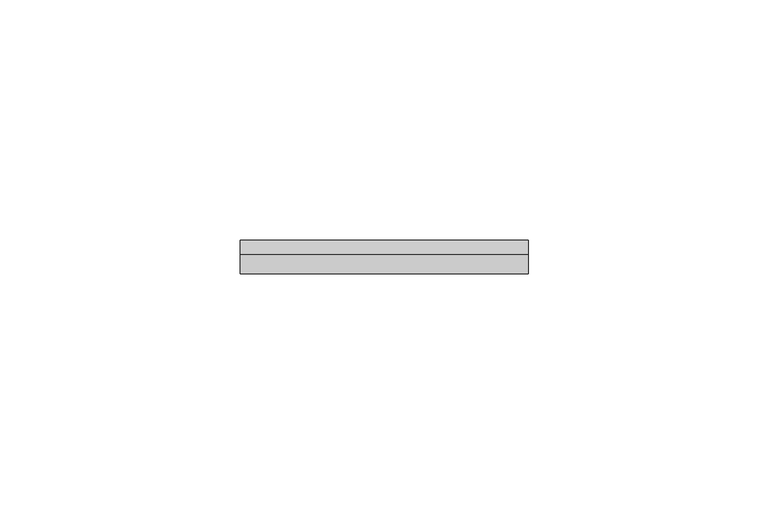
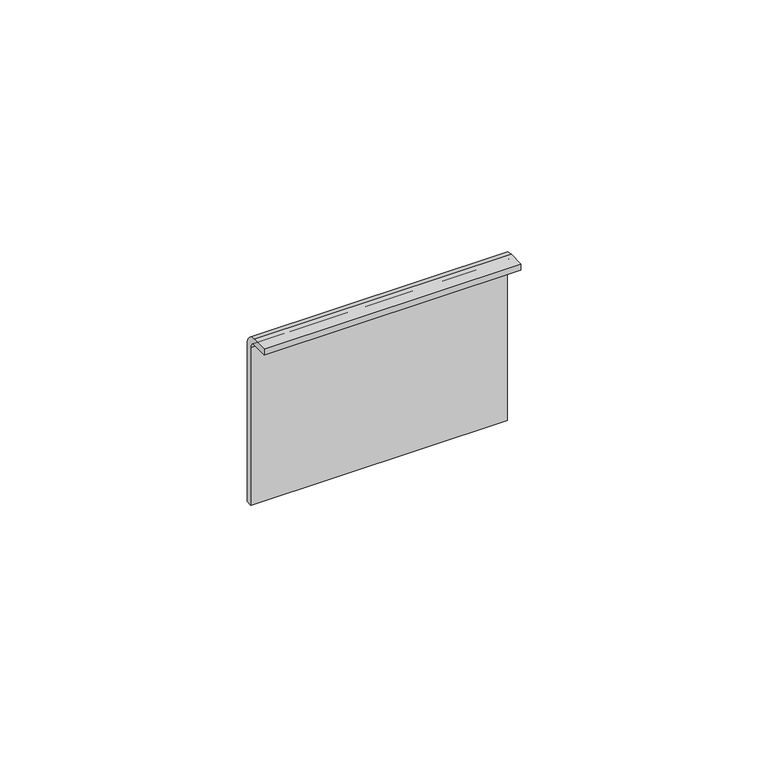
"""IFC4 building model written with IfcOpenShell, lengths in millimetres: proxy geometry, durlum_U1044 : durlum_U1044."""

import ifcopenshell
import ifcopenshell.guid

model = None  # the IFC model being written
_history = None  # IfcOwnerHistory: only IFC2X3 demands one
_inside = {}  # id of a spatial element -> (the spatial element, [elements in it])
_under = {}  # id of a project, library or spatial element -> (it, [spatial elements below it])
_declared = {}  # id of a project -> (the project, [libraries it declares])
_typed = {}  # id of a type object -> (the type object, [elements of that type])
_made_of = {}  # id of a material, layer set ... -> (it, [elements and type objects made of it])


def new_model(schema):
    """Start an empty IFC model of exactly this schema.

    Asked for "IFC4X3", IfcOpenShell would pick the latest addendum, in which some entities
    have other attributes; the version numbers below select the first issue.
    IFC2X3 requires an IfcOwnerHistory on every rooted entity: one is made here for all.
    """
    global model, _history
    if schema == "IFC4X3":
        model = ifcopenshell.file(schema_version=(4, 3, 0, 0))
    else:
        model = ifcopenshell.file(schema=schema)
    _inside.clear()
    _under.clear()
    _declared.clear()
    _typed.clear()
    _made_of.clear()
    _history = None
    if model.schema == "IFC2X3":
        org = make("IfcOrganization", Name="unknown")
        user = make(
            "IfcPersonAndOrganization",
            ThePerson=make("IfcPerson", FamilyName="unknown"),
            TheOrganization=org,
        )
        app = make(
            "IfcApplication",
            ApplicationDeveloper=org,
            Version="unknown",
            ApplicationFullName="unknown",
            ApplicationIdentifier="unknown",
        )
        _history = make(
            "IfcOwnerHistory",
            OwningUser=user,
            OwningApplication=app,
            ChangeAction="ADDED",
            CreationDate=0,
        )
    return model


def make(cls, **values):
    """One entity of the class cls with the attributes given. An attribute that is None is left unset."""
    return model.create_entity(
        cls, **{name: value for name, value in values.items() if value is not None}
    )


def rooted(cls, **values):
    """An entity with a GlobalId (a new one), such as an element, a storey or a relation."""
    return make(cls, GlobalId=ifcopenshell.guid.new(), OwnerHistory=_history, **values)


def si_unit(unit_type, name, prefix=None):
    """IfcSIUnit, for example si_unit("LENGTHUNIT", "METRE", prefix="MILLI")."""
    return make("IfcSIUnit", UnitType=unit_type, Prefix=prefix, Name=name)


def assignment(units):
    """IfcUnitAssignment: the units of a project."""
    return None if units is None else make("IfcUnitAssignment", Units=units)


def point(xyz):
    """IfcCartesianPoint."""
    return None if xyz is None else make("IfcCartesianPoint", Coordinates=xyz)


def direction(xyz):
    """IfcDirection."""
    return None if xyz is None else make("IfcDirection", DirectionRatios=xyz)


def frame(location, z_axis=None, x_axis=None):
    """IfcAxis2Placement3D, a coordinate frame: its origin and axes. An axis left out is left unset."""
    return make(
        "IfcAxis2Placement3D",
        Location=point(location),
        Axis=direction(z_axis),
        RefDirection=direction(x_axis),
    )


def frame_2d(location, x_axis=None):
    """IfcAxis2Placement2D, a coordinate frame in the plane: its origin and x axis."""
    return make(
        "IfcAxis2Placement2D", Location=point(location), RefDirection=direction(x_axis)
    )


def origin():
    """The frame at (0, 0, 0) with its axes left unset."""
    return frame((0.0, 0.0, 0.0))


def place(relative_to, where):
    """IfcLocalPlacement: puts the frame where relative to a parent placement (None: the world)."""
    return make(
        "IfcLocalPlacement", PlacementRelTo=relative_to, RelativePlacement=where
    )


def context(
    kind, dimensions, precision=None, world=None, true_north=None, identifier=None
):
    """IfcGeometricRepresentationContext, for example the 3D "Model" context."""
    return make(
        "IfcGeometricRepresentationContext",
        ContextIdentifier=identifier,
        ContextType=kind,
        CoordinateSpaceDimension=dimensions,
        Precision=precision,
        WorldCoordinateSystem=world,
        TrueNorth=true_north,
    )


def project(units=None, contexts=None):
    """IfcProject with its units and contexts."""
    return rooted(
        "IfcProject",
        Name="project",
        RepresentationContexts=contexts,
        UnitsInContext=assignment(units),
    )


def spatial(cls, under=None, at=None, **own):
    """A site, building, storey or space (cls), placed at a placement, below another one or the project."""
    s = rooted(cls, ObjectPlacement=at, **own)
    if under is not None:
        _under.setdefault(under.id(), (under, []))[1].append(s)
    return s


def polyline(points):
    """IfcPolyline through the points."""
    return make("IfcPolyline", Points=[point(p) for p in points])


def circle_curve(where, radius):
    """IfcCircle in the frame where."""
    return make("IfcCircle", Position=where, Radius=radius)


def trimmed(basis, trim1, trim2, sense, master):
    """IfcTrimmedCurve: the piece of a basis curve between two trims."""
    return make(
        "IfcTrimmedCurve",
        BasisCurve=basis,
        Trim1=trim1,
        Trim2=trim2,
        SenseAgreement=sense,
        MasterRepresentation=master,
    )


def segment(curve, same_sense, transition):
    """IfcCompositeCurveSegment."""
    return make(
        "IfcCompositeCurveSegment",
        Transition=transition,
        SameSense=same_sense,
        ParentCurve=curve,
    )


def composite_curve(segments, self_intersect=None):
    """IfcCompositeCurve: segments joined end to end."""
    return make("IfcCompositeCurve", Segments=segments, SelfIntersect=self_intersect)


def outline(outer, holes=None, kind="AREA"):
    """IfcArbitraryClosedProfileDef: a profile drawn as a closed curve; with holes, ...WithVoids."""
    if holes is None:
        return make("IfcArbitraryClosedProfileDef", ProfileType=kind, OuterCurve=outer)
    return make(
        "IfcArbitraryProfileDefWithVoids",
        ProfileType=kind,
        OuterCurve=outer,
        InnerCurves=holes,
    )


def extrude(swept, where, along, depth):
    """IfcExtrudedAreaSolid: the profile swept, set in the frame where, extruded along a direction by depth."""
    return make(
        "IfcExtrudedAreaSolid",
        SweptArea=swept,
        Position=where,
        ExtrudedDirection=direction(along),
        Depth=depth,
    )


def shape(context_of_items, identifier, shape_type, items):
    """IfcShapeRepresentation: the items that make up one representation, for example the "Body"."""
    return make(
        "IfcShapeRepresentation",
        ContextOfItems=context_of_items,
        RepresentationIdentifier=identifier,
        RepresentationType=shape_type,
        Items=items,
    )


def source(mapping_origin, context_of_items, identifier, shape_type, items):
    """IfcRepresentationMap: a shape defined once, which mapped items show again and again."""
    return make(
        "IfcRepresentationMap",
        MappingOrigin=mapping_origin,
        MappedRepresentation=shape(context_of_items, identifier, shape_type, items),
    )


def transform(
    local_origin,
    x_axis=None,
    y_axis=None,
    z_axis=None,
    scale=None,
    scale2=None,
    scale3=None,
    uniform=True,
):
    """IfcCartesianTransformationOperator3D, or its non-uniform kind. x_axis, y_axis, z_axis: its Axis1, 2, 3."""
    if uniform:
        return make(
            "IfcCartesianTransformationOperator3D",
            Axis1=direction(x_axis),
            Axis2=direction(y_axis),
            LocalOrigin=point(local_origin),
            Scale=scale,
            Axis3=direction(z_axis),
        )
    return make(
        "IfcCartesianTransformationOperator3DnonUniform",
        Axis1=direction(x_axis),
        Axis2=direction(y_axis),
        LocalOrigin=point(local_origin),
        Scale=scale,
        Axis3=direction(z_axis),
        Scale2=scale2,
        Scale3=scale3,
    )


def mapped(mapping_source, mapping_target):
    """IfcMappedItem: shows the shape of a source again, moved by a transform."""
    return make(
        "IfcMappedItem", MappingSource=mapping_source, MappingTarget=mapping_target
    )


def made_of(thing, what):
    """Note that an element or type object is made of a material, layer set ...; save() writes the relation."""
    if what is not None:
        _made_of.setdefault(what.id(), (what, []))[1].append(thing)
    return thing


def element(
    cls,
    number,
    at=None,
    inside=None,
    cuts=None,
    type_object=None,
    material=None,
    context=None,
    identifier="Body",
    shape_type=None,
    held_by="IfcProductDefinitionShape",
    body=None,
    shapes=None,
    **own,
):
    """One element of the class cls, such as IfcWall. Its Tag is "e" and its number.

    at: its placement. inside: the storey or other place that contains it. cuts: it is an
    opening in that element (IfcRelVoidsElement). A single representation is given by context,
    identifier, shape_type and body (its items); several are given by shapes. held_by: the class
    of the entity that holds the representations. save() writes the other relations.
    """
    e = rooted(cls, Tag="e%d" % number, ObjectPlacement=at, **own)
    if body is not None:
        shapes = [shape(context, identifier, shape_type, body)]
    if shapes is not None:
        e.Representation = make(held_by, Representations=shapes)
    if inside is not None:
        _inside.setdefault(inside.id(), (inside, []))[1].append(e)
    if cuts is not None:
        rooted(
            "IfcRelVoidsElement", RelatingBuildingElement=cuts, RelatedOpeningElement=e
        )
    if type_object is not None:
        _typed.setdefault(type_object.id(), (type_object, []))[1].append(e)
    return made_of(e, material)


def aggregate(whole, parts):
    """IfcRelAggregates: a whole, such as a stair, and the parts it consists of."""
    return rooted("IfcRelAggregates", RelatingObject=whole, RelatedObjects=parts)


def save(model, path):
    """Write the relations noted so far, then the file.

    IfcRelAggregates (storeys below a building ...), IfcRelContainedInSpatialStructure (elements
    in a storey), IfcRelDefinesByType, IfcRelAssociatesMaterial and IfcRelDeclares: one each for
    every whole, place, type object, material and project.
    """
    for whole, parts in _under.values():
        aggregate(whole, parts)
    for where, things in _inside.values():
        rooted(
            "IfcRelContainedInSpatialStructure",
            RelatedElements=things,
            RelatingStructure=where,
        )
    for kind, things in _typed.values():
        rooted("IfcRelDefinesByType", RelatedObjects=things, RelatingType=kind)
    for what, things in _made_of.values():
        rooted("IfcRelAssociatesMaterial", RelatedObjects=things, RelatingMaterial=what)
    for by, libraries in _declared.values():
        rooted("IfcRelDeclares", RelatingContext=by, RelatedDefinitions=libraries)
    model.write(path)


def generic_models_9ccf16c1(model_context):
    return source(origin(), model_context, "Body", "SweptSolid", [
        extrude(outline(composite_curve([segment(polyline([(0.0, 39.0), (0.0, 0.0), (-1.5, 0.0), (-1.5, 39.0)]), True, "CONTINUOUS"), segment(trimmed(circle_curve(frame_2d((-3.0, 39.0)), 1.5), [point((-1.5, 39.0))], [point((-3.0, 40.5))], True, "CARTESIAN"), True, "CONTINUOUS"), segment(polyline([(-3.0, 40.5), (-7.0, 40.5), (-7.0, 42.0), (-3.0, 42.0)]), True, "CONTINUOUS"), segment(trimmed(circle_curve(frame_2d((-3.0, 39.0)), 3.0), [point((-3.0, 42.0))], [point((0.0, 39.0))], False, "CARTESIAN"), True, "CONTINUOUS")], self_intersect=False)), frame((-30.0, 0.0, 0.0), z_axis=(1.0, 0.0, 0.0), x_axis=(0.0, 1.0, 0.0)), (0.0, 0.0, 1.0), 60.0),
    ])


if __name__ == "__main__":
    model = new_model("IFC4")
    model_context = context("Model", 3, world=origin())
    ifc_project = project(units=[si_unit("LENGTHUNIT", "METRE", prefix="MILLI")], contexts=[model_context])
    site = spatial("IfcSite", under=ifc_project)
    building = spatial("IfcBuilding", under=site)
    placement = place(None, origin())
    generic_models_shape = generic_models_9ccf16c1(model_context)
    element("IfcBuildingElementProxy", 1, Name="durlum_U1044 : durlum_U1044", ObjectType="durlum_U1044 : durlum_U1044", at=placement, inside=building, context=model_context, shape_type="MappedRepresentation", body=[
        mapped(generic_models_shape, transform((0.0, 0.0, 0.0), x_axis=(1.0, 0.0, 0.0), y_axis=(0.0, 1.0, 0.0), z_axis=(0.0, 0.0, 1.0))),
    ])
    save(model, "model.ifc")
